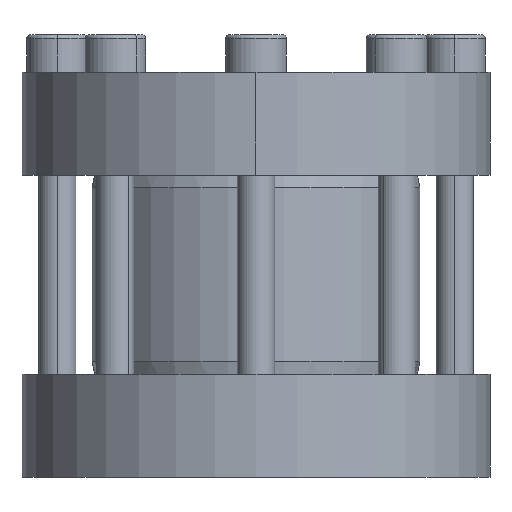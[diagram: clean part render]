
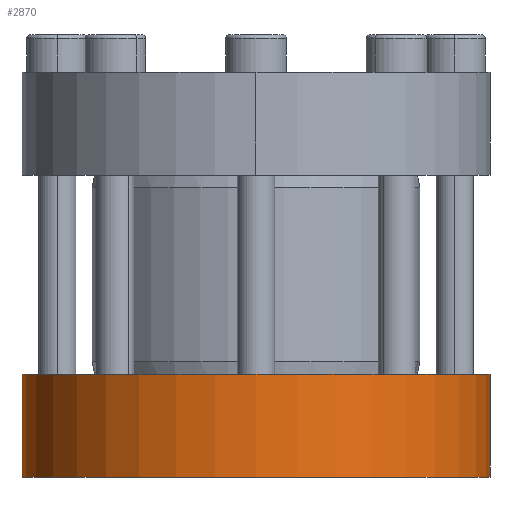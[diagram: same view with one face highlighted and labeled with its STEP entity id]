
A CAD part, front view. The second image highlights one B-rep face of the part: STEP entity #2870.
In plain terms, the highlighted cylindrical face has radius 50 mm (diameter 100 mm), a partial arc.
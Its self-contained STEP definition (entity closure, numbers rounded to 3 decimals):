
#570 = CARTESIAN_POINT ( 'NONE',  ( 50., 0., -2.743 ) ) ;
#781 = EDGE_CURVE ( 'NONE', #3006, #5150, #2810, .T. ) ;
#982 = AXIS2_PLACEMENT_3D ( 'NONE', #4896, #11356, #5831 ) ;
#1086 = AXIS2_PLACEMENT_3D ( 'NONE', #6737, #1219, #7659 ) ;
#1219 = DIRECTION ( 'NONE',  ( 0., 0., 1. ) ) ;
#1357 = VECTOR ( 'NONE', #2374, 1000. ) ;
#2081 = LINE ( 'NONE', #2268, #4212 ) ;
#2268 = CARTESIAN_POINT ( 'NONE',  ( -50., 0., 19.257 ) ) ;
#2374 = DIRECTION ( 'NONE',  ( 0., 0., -1. ) ) ;
#2530 = ORIENTED_EDGE ( 'NONE', *, *, #7324, .F. ) ;
#2810 = CIRCLE ( 'NONE', #982, 50. ) ;
#2870 = ADVANCED_FACE ( 'NONE', ( #11074 ), #7772, .T. ) ;
#3006 = VERTEX_POINT ( 'NONE', #9866 ) ;
#3238 = DIRECTION ( 'NONE',  ( 0., 0., -1. ) ) ;
#3274 = DIRECTION ( 'NONE',  ( -1., 0., 0. ) ) ;
#3993 = VERTEX_POINT ( 'NONE', #4581 ) ;
#4169 = ORIENTED_EDGE ( 'NONE', *, *, #781, .T. ) ;
#4212 = VECTOR ( 'NONE', #10469, 1000. ) ;
#4247 = ORIENTED_EDGE ( 'NONE', *, *, #5534, .F. ) ;
#4581 = CARTESIAN_POINT ( 'NONE',  ( -50., 0., 19.257 ) ) ;
#4896 = CARTESIAN_POINT ( 'NONE',  ( 0., 0., -2.743 ) ) ;
#5059 = CARTESIAN_POINT ( 'NONE',  ( 0., 0., 19.257 ) ) ;
#5150 = VERTEX_POINT ( 'NONE', #570 ) ;
#5534 = EDGE_CURVE ( 'NONE', #3993, #10772, #6814, .T. ) ;
#5831 = DIRECTION ( 'NONE',  ( 1., 0., 0. ) ) ;
#6244 = LINE ( 'NONE', #11549, #1357 ) ;
#6486 = AXIS2_PLACEMENT_3D ( 'NONE', #5059, #3238, #3274 ) ;
#6737 = CARTESIAN_POINT ( 'NONE',  ( 0., 0., 19.257 ) ) ;
#6814 = CIRCLE ( 'NONE', #1086, 50. ) ;
#7050 = EDGE_LOOP ( 'NONE', ( #2530, #4247, #9150, #4169 ) ) ;
#7324 = EDGE_CURVE ( 'NONE', #10772, #5150, #6244, .T. ) ;
#7659 = DIRECTION ( 'NONE',  ( 1., 0., 0. ) ) ;
#7772 = CYLINDRICAL_SURFACE ( 'NONE', #6486, 50. ) ;
#9150 = ORIENTED_EDGE ( 'NONE', *, *, #10321, .T. ) ;
#9442 = CARTESIAN_POINT ( 'NONE',  ( 50., 0., 19.257 ) ) ;
#9866 = CARTESIAN_POINT ( 'NONE',  ( -50., 0., -2.743 ) ) ;
#10321 = EDGE_CURVE ( 'NONE', #3993, #3006, #2081, .T. ) ;
#10469 = DIRECTION ( 'NONE',  ( 0., 0., -1. ) ) ;
#10772 = VERTEX_POINT ( 'NONE', #9442 ) ;
#11074 = FACE_OUTER_BOUND ( 'NONE', #7050, .T. ) ;
#11356 = DIRECTION ( 'NONE',  ( 0., 0., 1. ) ) ;
#11549 = CARTESIAN_POINT ( 'NONE',  ( 50., 0., 19.257 ) ) ;
